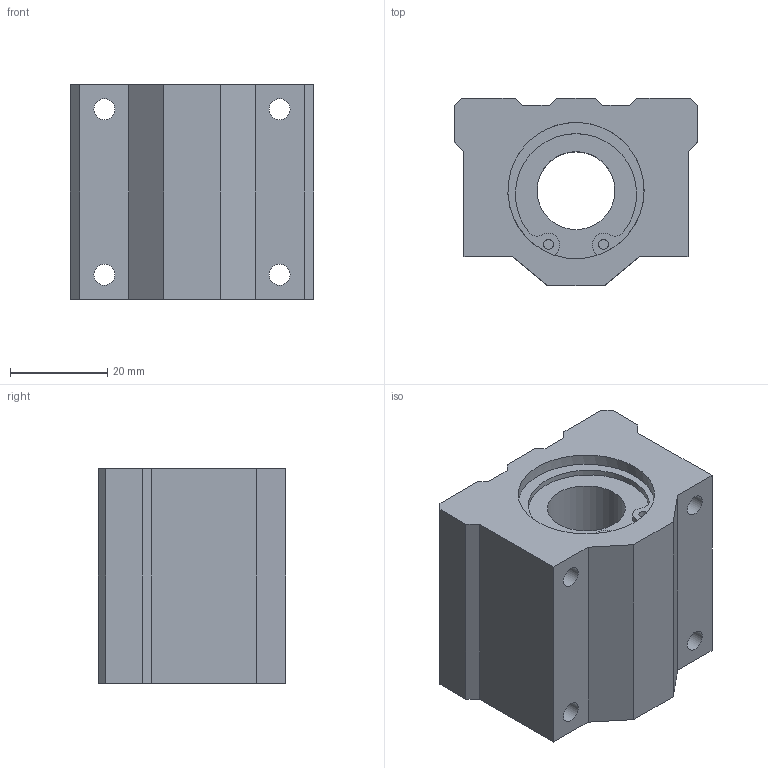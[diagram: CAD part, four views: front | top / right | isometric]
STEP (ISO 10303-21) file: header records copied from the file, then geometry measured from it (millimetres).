
FILE_DESCRIPTION(('STEP AP203'),'1');
FILE_NAME('//192.168.1.1/share/s-4 技術開発/s-4-4_CAD/s-4-4-3_見直し済み/008 修正済み/LC-A/LC-A_TOP/LC-16VAUU.step','2022-05-19T01:37:20',(' '),(' '),'Spatial InterOp 3D',' ',' ');
FILE_SCHEMA(('CONFIG_CONTROL_DESIGN'));
Length unit declared in the file: millimetre
Products named in the file (1): 1
Bounding box: 50 x 38.5 x 44 mm (x, y, z)
Volume: 58166.6 mm3; surface area: 14367.7 mm2
Topology: 1 solids, 1 shells, 65 faces, 171 edges, 114 vertices
Faces by surface type: plane 36, cylinder 29
Full cylindrical faces by diameter (mm): 2 x4, 4.3 x8, 16 x1, 28 x2
Entity records: 1956 total; most frequent: DIRECTION 338, CARTESIAN_POINT 324, ORIENTED_EDGE 300, EDGE_CURVE 150, AXIS2_PLACEMENT_3D 122, VERTEX_POINT 108, EDGE_LOOP 96, LINE 94
